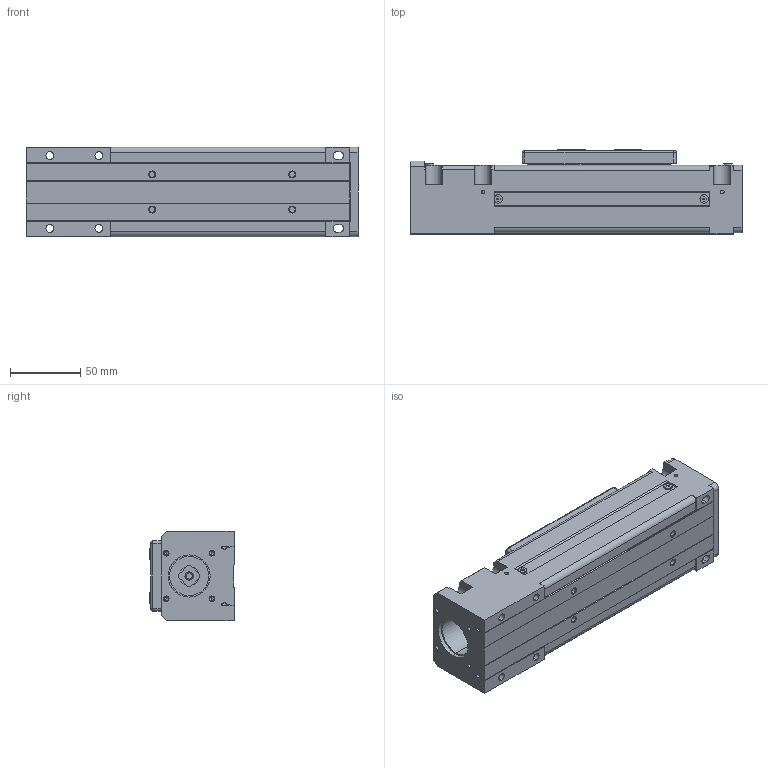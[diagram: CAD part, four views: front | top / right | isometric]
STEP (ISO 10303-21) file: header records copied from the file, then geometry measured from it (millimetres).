
FILE_DESCRIPTION (( 'STEP AP203' ), '1' );
FILE_NAME ('RL-60T-50.STEP', '2010-06-14T17:30:45', ( 'render' ), ( '' ), 'SwSTEP 2.0', 'SolidWorks 2009', '' );
FILE_SCHEMA (( 'CONFIG_CONTROL_DESIGN' ));
Length unit declared in the file: millimetre
Products named in the file (1): RL-60T-50
Bounding box: 237 x 60 x 64 mm (x, y, z)
Volume: 346835.6 mm3; surface area: 144632.8 mm2
Topology: 2 solids, 2 shells, 635 faces, 1705 edges, 1078 vertices
Faces by surface type: plane 432, cylinder 133, cone 62, bspline 8
Entity records: 19873 total; most frequent: CARTESIAN_POINT 3730, ORIENTED_EDGE 3382, DIRECTION 3244, EDGE_CURVE 1691, LINE 1302, VECTOR 1302, VERTEX_POINT 1077, AXIS2_PLACEMENT_3D 971
